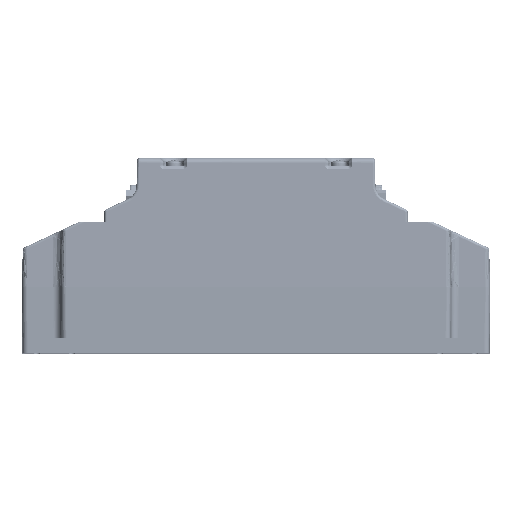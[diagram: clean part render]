
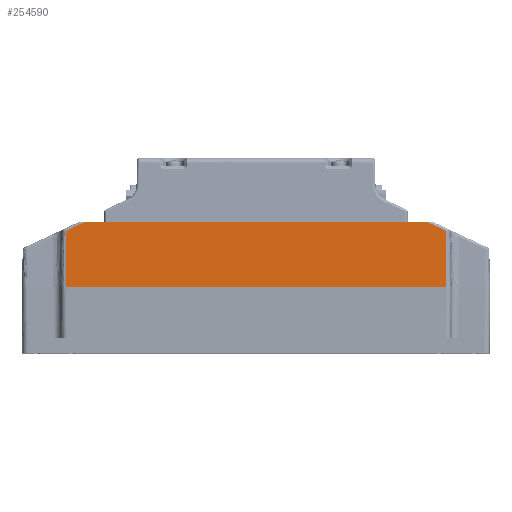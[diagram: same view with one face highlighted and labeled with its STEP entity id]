
A CAD part, top view. The second image highlights one B-rep face of the part: STEP entity #254590.
In plain terms, the highlighted planar face has unit normal (0, 0.018, 1).
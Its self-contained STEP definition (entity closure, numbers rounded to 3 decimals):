
#5133 = CARTESIAN_POINT ( 'NONE',  ( -67.748, 1.223, 79.413 ) ) ;
#5170 = DIRECTION ( 'NONE',  ( -0.906, -0.423, 0.007 ) ) ;
#5179 = CARTESIAN_POINT ( 'NONE',  ( -74.688, -11.255, 79.63 ) ) ;
#5225 = DIRECTION ( 'NONE',  ( 0., -1., 0.017 ) ) ;
#5258 = CARTESIAN_POINT ( 'NONE',  ( -1.518, -23.732, 79.848 ) ) ;
#5261 = DIRECTION ( 'NONE',  ( 1., 0., 0. ) ) ;
#5263 = CARTESIAN_POINT ( 'NONE',  ( 71.652, -11.255, 79.63 ) ) ;
#5266 = DIRECTION ( 'NONE',  ( 0., 1., -0.017 ) ) ;
#5488 = CARTESIAN_POINT ( 'NONE',  ( 71.652, -2.013, 79.469 ) ) ;
#5496 = DIRECTION ( 'NONE',  ( -0.906, 0.423, -0.007 ) ) ;
#28050 = LINE ( 'NONE', #34432, #28080 ) ;
#28080 = VECTOR ( 'NONE', #34471, 1000. ) ;
#34432 = CARTESIAN_POINT ( 'NONE',  ( -1.518, 1.223, 79.413 ) ) ;
#34471 = DIRECTION ( 'NONE',  ( -1., 0., 0. ) ) ;
#47317 = CARTESIAN_POINT ( 'NONE',  ( -67.748, 1.223, 79.413 ) ) ;
#47321 = CARTESIAN_POINT ( 'NONE',  ( -74.688, -23.732, 79.848 ) ) ;
#47324 = CARTESIAN_POINT ( 'NONE',  ( 71.652, -23.732, 79.848 ) ) ;
#47342 = CARTESIAN_POINT ( 'NONE',  ( 64.713, 1.223, 79.413 ) ) ;
#67719 = ORIENTED_EDGE ( 'NONE', *, *, #97648, .T. ) ;
#67721 = ORIENTED_EDGE ( 'NONE', *, *, #97651, .T. ) ;
#67724 = ORIENTED_EDGE ( 'NONE', *, *, #97673, .T. ) ;
#67727 = ORIENTED_EDGE ( 'NONE', *, *, #98171, .T. ) ;
#67730 = ORIENTED_EDGE ( 'NONE', *, *, #97637, .T. ) ;
#67733 = ORIENTED_EDGE ( 'NONE', *, *, #97644, .T. ) ;
#97637 = EDGE_CURVE ( 'NONE', #306488, #159831, #291649, .T. ) ;
#97644 = EDGE_CURVE ( 'NONE', #159831, #306492, #291655, .T. ) ;
#97648 = EDGE_CURVE ( 'NONE', #306492, #306496, #291652, .T. ) ;
#97651 = EDGE_CURVE ( 'NONE', #306496, #159884, #291658, .T. ) ;
#97673 = EDGE_CURVE ( 'NONE', #159884, #306510, #291672, .T. ) ;
#98171 = EDGE_CURVE ( 'NONE', #306510, #306488, #28050, .T. ) ;
#159831 = VERTEX_POINT ( 'NONE', #285150 ) ;
#159884 = VERTEX_POINT ( 'NONE', #285223 ) ;
#206984 = AXIS2_PLACEMENT_3D ( 'NONE', #228167, #228170, #228172 ) ;
#225926 = FACE_OUTER_BOUND ( 'NONE', #236061, .T. ) ;
#228145 = PLANE ( 'NONE',  #206984 ) ;
#228167 = CARTESIAN_POINT ( 'NONE',  ( -74.688, 1.223, 79.413 ) ) ;
#228170 = DIRECTION ( 'NONE',  ( 0., 0.017, 1. ) ) ;
#228172 = DIRECTION ( 'NONE',  ( 0., -1., 0.017 ) ) ;
#236061 = EDGE_LOOP ( 'NONE', ( #67719, #67721, #67724, #67727, #67730, #67733 ) ) ;
#254590 = ADVANCED_FACE ( 'NONE', ( #225926 ), #228145, .T. ) ;
#285150 = CARTESIAN_POINT ( 'NONE',  ( -74.688, -2.013, 79.469 ) ) ;
#285223 = CARTESIAN_POINT ( 'NONE',  ( 71.652, -2.013, 79.469 ) ) ;
#291649 = LINE ( 'NONE', #5133, #291654 ) ;
#291652 = LINE ( 'NONE', #5258, #291656 ) ;
#291653 = VECTOR ( 'NONE', #5225, 1000. ) ;
#291654 = VECTOR ( 'NONE', #5170, 1000. ) ;
#291655 = LINE ( 'NONE', #5179, #291653 ) ;
#291656 = VECTOR ( 'NONE', #5261, 1000. ) ;
#291658 = LINE ( 'NONE', #5263, #291660 ) ;
#291660 = VECTOR ( 'NONE', #5266, 1000. ) ;
#291671 = VECTOR ( 'NONE', #5496, 1000. ) ;
#291672 = LINE ( 'NONE', #5488, #291671 ) ;
#306488 = VERTEX_POINT ( 'NONE', #47317 ) ;
#306492 = VERTEX_POINT ( 'NONE', #47321 ) ;
#306496 = VERTEX_POINT ( 'NONE', #47324 ) ;
#306510 = VERTEX_POINT ( 'NONE', #47342 ) ;
